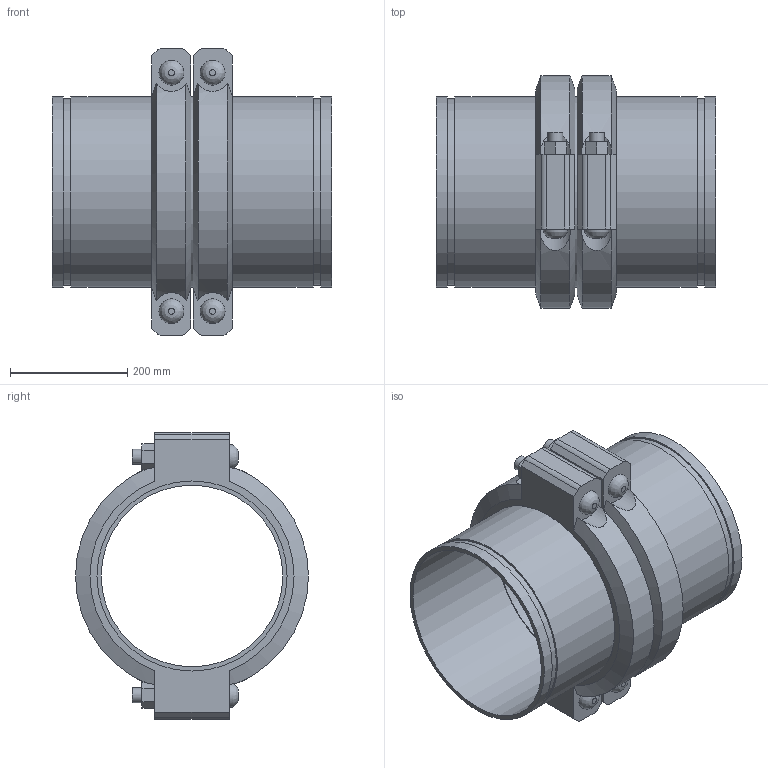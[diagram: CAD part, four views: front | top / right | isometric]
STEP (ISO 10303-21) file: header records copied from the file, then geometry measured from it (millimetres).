
FILE_DESCRIPTION(/* description */ ('VIC EXPANSION JOINT 2 COUPLINGS COMPRESSED STYLE 155 (OGS)','CAx-IF Rec.Pracs.---Representation and Presentation of Product Manufacturing Information (PMI)---4.0---2014-10-13'),/* implementation_level */ '2;1');
FILE_NAME(/* name */ 'C:\Users\kkamble\AppData\Roaming\Autodesk\ApplicationPlugins\Victaulic.Temp\A11\Victaulic_IPS_Expansion Joint_Compressed_2 Couplings_Style 155 (OGS)_12 (300).stp',/* time_stamp */ '2021-06-27T00:24:04+02:00',/* author */ ('kkamble'),/* organization */ ('Victaulic'),/* preprocessor_version */ 'ST-DEVELOPER v17.2',/* originating_system */ 'Autodesk Inventor 2019',/* authorisation */ '');
FILE_SCHEMA (('AP242_MANAGED_MODEL_BASED_3D_ENGINEERING_MIM_LF { 1 0 10303 442 1 1 4 }'));
Length unit declared in the file: inch
Products named in the file (4): 155-12.0; Nipple-12.0; Nipple-12.0_1; 077-2 Coup-12.0
Assembly tree (5 placements, depth 2):
  155-12.0
    Nipple-12.0  x2
    Nipple-12.0_1
    077-2 Coup-12.0  x2
Bounding box: 476.25 x 397 x 488.95 mm (x, y, z)
Volume: 9924582.8 mm3; surface area: 1640328.9 mm2
Topology: 5 solids, 9 shells, 150 faces, 368 edges, 260 vertices
Faces by surface type: plane 86, cylinder 52, cone 8, bspline 4
Full cylindrical faces by diameter (mm): 25.4 x8, 27.432 x4, 309.677 x3, 318.287 x6, 323.85 x11
Entity records: 2915 total; most frequent: CARTESIAN_POINT 639, DIRECTION 447, ORIENTED_EDGE 398, EDGE_CURVE 199, AXIS2_PLACEMENT_3D 180, VERTEX_POINT 142, EDGE_LOOP 105, CIRCLE 92
